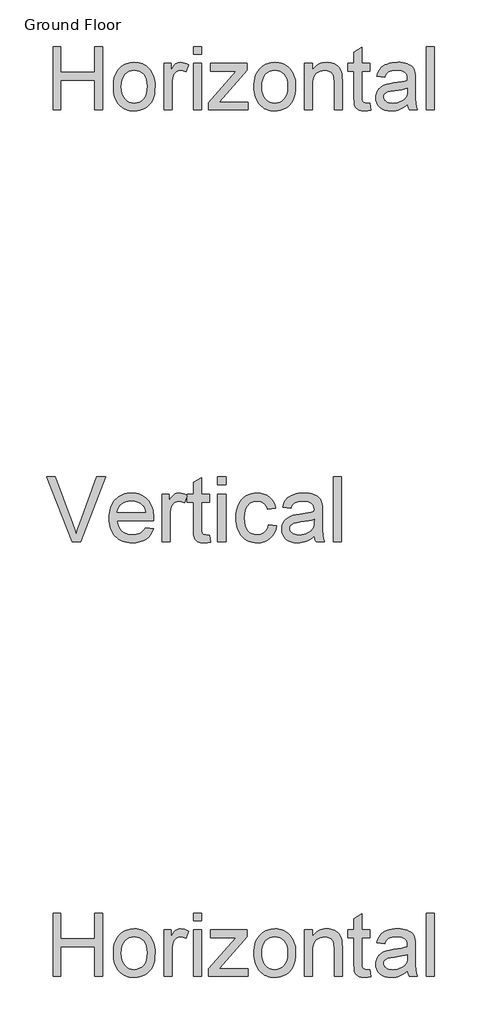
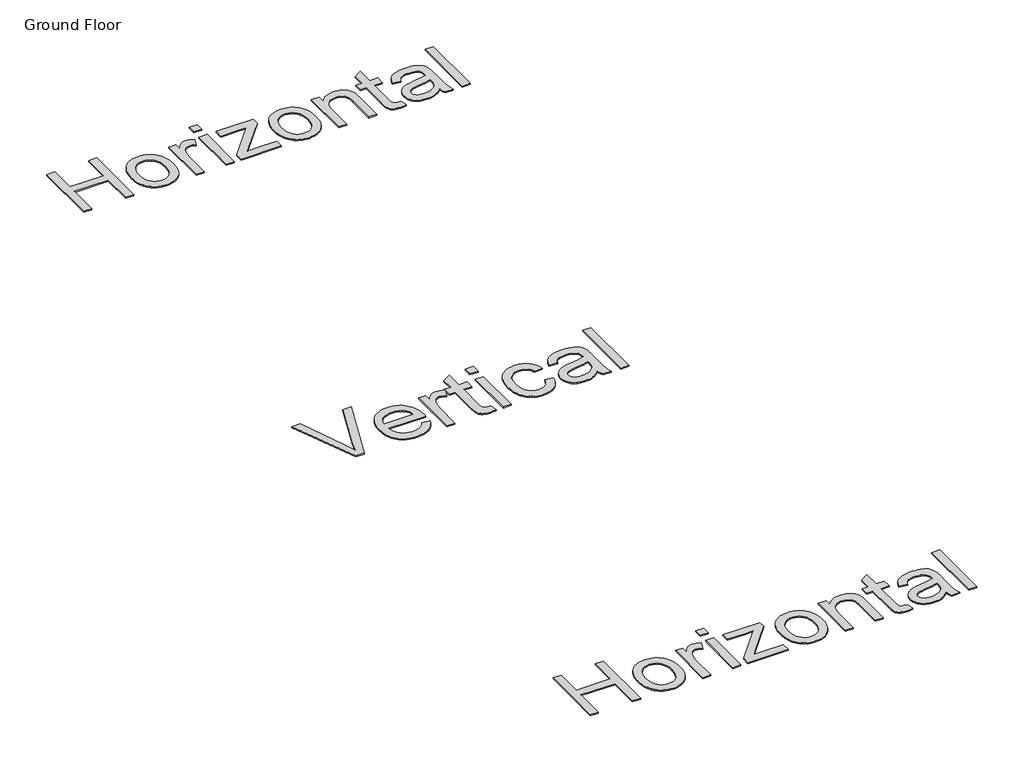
# One storey, part 5 of 12: 3 proxies.
"""IFC4 building model written with IfcOpenShell, lengths in millimetres."""

from ifc_helpers import new_model, si_unit, origin, origin_with_axes, place, context, project, spatial, polyline, outline, extrude, element, save

model = new_model("IFC4")

# Units and contexts
model_context = context("Model", 3, world=origin())
ifc_project = project(units=[si_unit("LENGTHUNIT", "METRE", prefix="MILLI")], contexts=[model_context])

# Site, building, storey
site = spatial("IfcSite", under=ifc_project)
building = spatial("IfcBuilding", under=site)
storey = spatial("IfcBuildingStorey", under=building, Name="Ground Floor", Elevation=0.0)

# Proxies
placement = place(None, origin())
element("IfcBuildingElementProxy", 1, Name="1200mm Arial", ObjectType="1200mm Arial", at=placement, inside=storey, context=model_context, shape_type="SweptSolid", body=[
    extrude(outline(polyline([(-17389.6614443, 299.4047843), (-17389.6614443, 1474.6775116), (-17242.7523534, 1474.6775116), (-17242.7523534, 997.2229661), (-16618.3887171, 997.2229661), (-16618.3887171, 1474.6775116), (-16471.4796262, 1474.6775116), (-16471.4796262, 299.4047843), (-16618.3887171, 299.4047843), (-16618.3887171, 850.3138752), (-17242.7523534, 850.3138752), (-17242.7523534, 299.4047843), (-17389.6614443, 299.4047843)])), origin_with_axes(), (0.0, 0.0, 1.0), 20.0),
    extrude(outline(polyline([(-16269.4796262, 730.9502389), (-16267.49352, 788.7714835), (-16261.5352014, 842.7281153), (-16251.6046706, 892.8201341), (-16237.7019273, 939.04754), (-16219.8269717, 981.410333), (-16197.9798037, 1019.908513), (-16172.1604234, 1054.5420801), (-16142.3688307, 1085.3110343), (-16115.1013414, 1107.7051661), (-16086.3812597, 1127.1134136), (-16056.2085857, 1143.5357769), (-16024.5833193, 1156.9722559), (-15991.5054607, 1167.4228507), (-15956.9750097, 1174.8875613), (-15883.5563307, 1180.8593298), (-15842.0610582, 1179.0413477), (-15802.5070587, 1173.5874015), (-15764.8943323, 1164.4974912), (-15729.222879, 1151.7716167), (-15695.4926988, 1135.4097781), (-15663.7037916, 1115.4119754), (-15633.8561576, 1091.7782085), (-15605.9497966, 1064.5084775), (-15580.697555, 1034.0331801), (-15558.8122789, 1000.782714), (-15540.2939683, 964.7570792), (-15525.1426233, 925.9562758), (-15513.3582439, 884.3803037), (-15504.94083, 840.0291629), (-15499.8903817, 792.9028534), (-15498.2068989, 743.0013752), (-15501.1838165, 664.3641238), (-15510.1145693, 594.5858923), (-15524.9991574, 533.6666806), (-15545.8375807, 481.6064889), (-15572.3698073, 436.638893), (-15604.3358051, 396.997469), (-15641.7355743, 362.6822168), (-15684.5691148, 333.6931366), (-15731.1686354, 310.6578916), (-15779.8663449, 294.2041451), (-15830.6622433, 284.3318972), (-15883.5563307, 281.041148), (-15925.7061665, 282.8524051), (-15965.7891965, 288.2861764), (-16003.8054207, 297.3424619), (-16039.7548392, 310.0212616), (-16073.637452, 326.3225755), (-16105.453259, 346.2464036), (-16135.2022602, 369.792746), (-16162.8844557, 396.9616025), (-16187.8676988, 427.5377744), (-16209.5198428, 461.3060627), (-16227.8408877, 498.2664676), (-16242.8308335, 538.4189889), (-16254.4896803, 581.7636266), (-16262.817428, 628.3003809), (-16267.8140766, 678.0292516), (-16269.4796262, 730.9502389)]), holes=[polyline([(-16122.5705353, 731.2371707), (-16118.3203577, 659.979447), (-16105.569825, 598.2801394), (-16084.3189372, 546.1392481), (-16054.5676943, 503.556773), (-16018.3784188, 470.4789143), (-15977.813433, 446.8518724), (-15932.872737, 432.6756472), (-15883.5563307, 427.9502389), (-15834.4909898, 432.7025471), (-15789.7296262, 446.9594718), (-15749.2722398, 470.721013), (-15713.1188307, 503.9871707), (-15683.3675878, 546.9910769), (-15662.1167, 599.9658639), (-15649.3661674, 662.9115315), (-15645.1159898, 735.8280798), (-15649.3930672, 804.8262154), (-15662.2242995, 864.9115315), (-15683.6096865, 916.0840279), (-15713.5492284, 958.3437048), (-15749.8371368, 991.4215634), (-15790.2676233, 1015.0486053), (-15834.840688, 1029.2248305), (-15883.5563307, 1033.9502389), (-15932.872737, 1029.2427637), (-15977.813433, 1015.1203383), (-16018.3784188, 991.5829626), (-16054.5676943, 958.6306366), (-16084.3189372, 916.1736941), (-16105.569825, 864.122469), (-16118.3203577, 802.4769612), (-16122.5705353, 731.2371707)])]), origin_with_axes(), (0.0, 0.0, 1.0), 20.0),
    extrude(outline(polyline([(-15332.9341716, 299.4047843), (-15332.9341716, 1162.4956934), (-15204.3887171, 1162.4956934), (-15204.3887171, 1034.8110343), (-15180.1788449, 1075.6270855), (-15156.9015012, 1108.8394434), (-15134.5566858, 1134.4481082), (-15113.1443989, 1152.4530798), (-15091.6962455, 1164.8808141), (-15069.2438307, 1173.7577673), (-15045.7871546, 1179.0839391), (-15021.3262171, 1180.8593298), (-14984.8858762, 1178.0258781), (-14948.1586034, 1169.525523), (-14911.1443989, 1155.3582644), (-14873.8432625, 1135.5241025), (-14922.9086034, 1003.822398), (-14948.7324671, 1017.0033284), (-14974.5563307, 1026.4182786), (-15000.3801943, 1032.0672488), (-15026.204058, 1033.9502389), (-15048.7192391, 1032.1389818), (-15070.0687597, 1026.7052105), (-15090.2526198, 1017.6489249), (-15109.2708193, 1004.9701252), (-15126.4060289, 989.0812758), (-15140.9409188, 970.3948411), (-15152.8754891, 948.9108212), (-15162.2097398, 924.6292161), (-15172.6289514, 884.5304945), (-15180.0712455, 842.5667161), (-15186.0250807, 753.0439889), (-15186.0250807, 299.4047843), (-15332.9341716, 299.4047843)])), origin_with_axes(), (0.0, 0.0, 1.0), 20.0),
    extrude(outline(polyline([(-14782.0250807, 299.4047843), (-14782.0250807, 1162.4956934), (-14635.1159898, 1162.4956934), (-14635.1159898, 299.4047843), (-14782.0250807, 299.4047843)])), origin_with_axes(), (0.0, 0.0, 1.0), 20.0),
    extrude(outline(polyline([(-14782.0250807, 1327.7684207), (-14782.0250807, 1474.6775116), (-14635.1159898, 1474.6775116), (-14635.1159898, 1327.7684207), (-14782.0250807, 1327.7684207)])), origin_with_axes(), (0.0, 0.0, 1.0), 20.0),
    extrude(outline(polyline([(-14506.5705353, 299.4047843), (-14506.5705353, 437.7059207), (-13999.5620125, 1015.5866025), (-14149.6273534, 1015.5866025), (-14469.8432625, 1015.5866025), (-14469.8432625, 1162.4956934), (-13790.3887171, 1162.4956934), (-13790.3887171, 1037.6803525), (-14240.0108762, 524.9331934), (-14308.8745125, 446.3138752), (-14139.0108762, 446.3138752), (-13772.0250807, 446.3138752), (-13772.0250807, 299.4047843), (-14506.5705353, 299.4047843)])), origin_with_axes(), (0.0, 0.0, 1.0), 20.0),
    extrude(outline(polyline([(-13661.8432625, 730.9502389), (-13659.8571563, 788.7714835), (-13653.8988378, 842.7281153), (-13643.9683069, 892.8201341), (-13630.0655637, 939.04754), (-13612.1906081, 981.410333), (-13590.3434401, 1019.908513), (-13564.5240598, 1054.5420801), (-13534.7324671, 1085.3110343), (-13507.4649777, 1107.7051661), (-13478.744896, 1127.1134136), (-13448.572222, 1143.5357769), (-13416.9469557, 1156.9722559), (-13383.869097, 1167.4228507), (-13349.338646, 1174.8875613), (-13275.9199671, 1180.8593298), (-13234.4246945, 1179.0413477), (-13194.8706951, 1173.5874015), (-13157.2579687, 1164.4974912), (-13121.5865154, 1151.7716167), (-13087.8563351, 1135.4097781), (-13056.067428, 1115.4119754), (-13026.219794, 1091.7782085), (-12998.313433, 1064.5084775), (-12973.0611913, 1034.0331801), (-12951.1759152, 1000.782714), (-12932.6576047, 964.7570792), (-12917.5062597, 925.9562758), (-12905.7218802, 884.3803037), (-12897.3044664, 840.0291629), (-12892.254018, 792.9028534), (-12890.5705353, 743.0013752), (-12893.5474529, 664.3641238), (-12902.4782057, 594.5858923), (-12917.3627938, 533.6666806), (-12938.2012171, 481.6064889), (-12964.7334436, 436.638893), (-12996.6994415, 396.997469), (-13034.0992107, 362.6822168), (-13076.9327512, 333.6931366), (-13123.5322718, 310.6578916), (-13172.2299813, 294.2041451), (-13223.0258797, 284.3318972), (-13275.9199671, 281.041148), (-13318.0698028, 282.8524051), (-13358.1528328, 288.2861764), (-13396.1690571, 297.3424619), (-13432.1184756, 310.0212616), (-13466.0010883, 326.3225755), (-13497.8168953, 346.2464036), (-13527.5658966, 369.792746), (-13555.2480921, 396.9616025), (-13580.2313351, 427.5377744), (-13601.8834791, 461.3060627), (-13620.2045241, 498.2664676), (-13635.1944699, 538.4189889), (-13646.8533167, 581.7636266), (-13655.1810644, 628.3003809), (-13660.177713, 678.0292516), (-13661.8432625, 730.9502389)]), holes=[polyline([(-13514.9341716, 731.2371707), (-13510.6839941, 659.979447), (-13497.9334614, 598.2801394), (-13476.6825736, 546.1392481), (-13446.9313307, 503.556773), (-13410.7420551, 470.4789143), (-13370.1770693, 446.8518724), (-13325.2363733, 432.6756472), (-13275.9199671, 427.9502389), (-13226.8546262, 432.7025471), (-13182.0932625, 446.9594718), (-13141.6358762, 470.721013), (-13105.4824671, 503.9871707), (-13075.7312242, 546.9910769), (-13054.4803364, 599.9658639), (-13041.7298037, 662.9115315), (-13037.4796262, 735.8280798), (-13041.7567036, 804.8262154), (-13054.5879358, 864.9115315), (-13075.9733229, 916.0840279), (-13105.9128648, 958.3437048), (-13142.2007732, 991.4215634), (-13182.6312597, 1015.0486053), (-13227.2043243, 1029.2248305), (-13275.9199671, 1033.9502389), (-13325.2363733, 1029.2427637), (-13370.1770693, 1015.1203383), (-13410.7420551, 991.5829626), (-13446.9313307, 958.6306366), (-13476.6825736, 916.1736941), (-13497.9334614, 864.122469), (-13510.6839941, 802.4769612), (-13514.9341716, 731.2371707)])]), origin_with_axes(), (0.0, 0.0, 1.0), 20.0),
    extrude(outline(polyline([(-12725.297808, 299.4047843), (-12725.297808, 1162.4956934), (-12578.3887171, 1162.4956934), (-12578.3887171, 1041.9843298), (-12554.1519451, 1074.5331579), (-12527.3507199, 1102.7421423), (-12497.9850416, 1126.6112829), (-12466.0549103, 1146.1405798), (-12431.5603257, 1161.3300329), (-12394.5012881, 1172.1796423), (-12354.8777973, 1178.6894079), (-12312.6898534, 1180.8593298), (-12275.720482, 1179.110839), (-12240.2754358, 1173.8653667), (-12206.3547149, 1165.1229129), (-12173.9583193, 1152.8834775), (-12144.3146759, 1137.8016238), (-12118.6522114, 1120.531915), (-12096.9709259, 1101.0743511), (-12079.2708193, 1079.428932), (-12052.5502938, 1029.6821281), (-12035.2267853, 971.3991025), (-12029.4164159, 915.6625968), (-12027.4796262, 829.3678525), (-12027.4796262, 299.4047843), (-12174.3887171, 299.4047843), (-12174.3887171, 809.569557), (-12178.6209614, 885.5347559), (-12183.9112668, 915.2859988), (-12191.3176943, 939.5496707), (-12201.4051411, 959.9845961), (-12214.738504, 978.2495997), (-12231.3177831, 994.3446813), (-12251.1429784, 1008.2698411), (-12273.5326269, 1019.5050151), (-12297.8052654, 1027.5301394), (-12323.9608939, 1032.345214), (-12351.9995125, 1033.9502389), (-12396.6084436, 1030.3456579), (-12438.0431915, 1019.531915), (-12476.3037561, 1001.5090102), (-12511.3901375, 976.2769434), (-12527.0929296, 960.2401448), (-12540.7020161, 940.9663965), (-12552.2173969, 918.4556987), (-12561.6390722, 892.7080514), (-12574.2013058, 831.5019079), (-12578.3887171, 757.3479661), (-12578.3887171, 299.4047843), (-12725.297808, 299.4047843)])), origin_with_axes(), (0.0, 0.0, 1.0), 20.0),
    extrude(outline(polyline([(-11513.297808, 421.9246707), (-11494.9341716, 295.100807), (-11553.1095978, 284.5560627), (-11604.829058, 281.041148), (-11642.32746, 282.5654732), (-11675.3425523, 287.1384491), (-11703.874335, 294.7600755), (-11727.922808, 305.4303525), (-11748.1156347, 318.5754164), (-11765.0804784, 333.6214036), (-11778.8173392, 350.5683141), (-11789.3262171, 369.416148), (-11797.1092426, 394.6840812), (-11802.6685466, 430.89129), (-11807.1159898, 536.1235343), (-11807.1159898, 1015.5866025), (-11917.297808, 1015.5866025), (-11917.297808, 1162.4956934), (-11807.1159898, 1162.4956934), (-11807.1159898, 1372.2428525), (-11660.2068989, 1458.6093298), (-11660.2068989, 1162.4956934), (-11513.297808, 1162.4956934), (-11513.297808, 1015.5866025), (-11660.2068989, 1015.5866025), (-11660.2068989, 540.4275116), (-11658.2701091, 492.0795002), (-11652.4597398, 464.6775116), (-11642.3095267, 449.5059917), (-11627.3532057, 437.8493866), (-11606.1561176, 430.4250258), (-11577.2836034, 427.9502389), (-11513.297808, 421.9246707)])), origin_with_axes(), (0.0, 0.0, 1.0), 20.0),
    extrude(outline(polyline([(-10815.4796262, 409.5866025), (-10850.3149422, 376.8943085), (-10885.6703222, 349.4026536), (-10921.5457661, 327.111638), (-10957.9412739, 310.0212616), (-10995.2693101, 297.3424619), (-11033.9423392, 288.2861764), (-11073.9603612, 282.8524051), (-11115.3233762, 281.041148), (-11180.7348641, 285.3989249), (-11238.0943279, 298.4722559), (-11287.4017675, 320.2611409), (-11328.657183, 350.7655798), (-11361.232911, 388.0487829), (-11384.5012881, 430.1739605), (-11398.4623144, 477.1411124), (-11403.1159898, 528.9502389), (-11401.3585324, 560.1002744), (-11396.0861603, 589.8515173), (-11387.2988733, 618.2039676), (-11374.9966716, 645.1576252), (-11359.8341183, 670.1206934), (-11342.4657767, 692.5013752), (-11322.8916468, 712.2996707), (-11301.1117284, 729.5155798), (-11252.5126517, 757.491432), (-11198.2466716, 777.7201252), (-11145.3794841, 788.9821991), (-11071.1358762, 799.8138752), (-10920.9270693, 823.0553525), (-10862.9309756, 836.1824832), (-10816.3404216, 850.3138752), (-10815.4796262, 883.0241025), (-10818.0082128, 918.6395144), (-10825.5939728, 948.588023), (-10838.236906, 972.8696281), (-10855.9370125, 991.4843298), (-10886.5311176, 1010.063165), (-10923.7963875, 1023.3337616), (-10967.7328222, 1031.2961195), (-11018.3404216, 1033.9502389), (-11065.3972398, 1032.1838149), (-11105.8546262, 1026.8845428), (-11139.7125807, 1018.0524228), (-11166.9711034, 1005.6874548), (-11189.3697185, 988.8212438), (-11208.64795, 966.4853951), (-11224.805798, 938.6799086), (-11237.8432625, 905.4047843), (-11384.7523534, 923.7684207), (-11373.5709791, 966.0908639), (-11359.2512881, 1004.1093298), (-11341.7932803, 1037.8238184), (-11321.1969557, 1067.2343298), (-11296.5746191, 1092.9326607), (-11267.038575, 1115.5106082), (-11232.5888236, 1134.9681721), (-11193.2253648, 1151.3053525), (-11149.7462277, 1164.2352176), (-11102.9494415, 1173.4708355), (-11052.8350061, 1179.0122062), (-10999.4029216, 1180.8593298), (-10947.1723641, 1179.2274051), (-10900.088646, 1174.3316309), (-10858.1517675, 1166.1720073), (-10821.3617284, 1154.7485343), (-10789.4136638, 1140.859241), (-10762.0027085, 1125.3021565), (-10739.1288627, 1108.0772808), (-10720.7921262, 1089.1846139), (-10705.9254713, 1068.1578916), (-10693.4618705, 1044.5308497), (-10675.7438307, 989.475807), (-10670.3638591, 938.6888752), (-10668.5705353, 860.9303525), (-10668.5705353, 678.1547843), (-10666.7054784, 518.9434917), (-10661.110308, 422.928932), (-10650.063433, 359.8397985), (-10631.8432625, 299.4047843), (-10778.7523534, 299.4047843), (-10791.8077512, 323.9374548), (-10802.2807625, 350.478648), (-10815.4796262, 409.5866025)]), holes=[polyline([(-10815.4796262, 703.4047843), (-10859.882325, 690.6901181), (-10914.1841716, 678.9438468), (-11052.485308, 658.3564889), (-11128.7015722, 647.094415), (-11178.8787739, 634.541148), (-11211.7683335, 618.2577673), (-11236.1216716, 595.8053525), (-11251.1855921, 568.9054945), (-11256.2068989, 539.2797843), (-11253.47208, 516.4507715), (-11245.2676233, 495.594415), (-11231.5935289, 476.7107147), (-11212.4497966, 459.7996707), (-11188.015759, 445.8655443), (-11158.4707483, 435.9125968), (-11123.8147647, 429.9408284), (-11084.047808, 427.9502389), (-11043.4469557, 430.1470606), (-11005.141558, 436.7375258), (-10969.1316148, 447.7216345), (-10935.4171262, 463.0993866), (-10905.0023534, 481.5975222), (-10878.891558, 501.9427815), (-10857.0847398, 524.1351643), (-10839.5818989, 548.1746707), (-10829.4137526, 569.694557), (-10822.1507909, 595.8053525), (-10817.7930139, 626.507057), (-10816.3404216, 661.7996707), (-10815.4796262, 703.4047843)])]), origin_with_axes(), (0.0, 0.0, 1.0), 20.0),
    extrude(outline(polyline([(-10466.5705353, 299.4047843), (-10466.5705353, 1474.6775116), (-10319.6614443, 1474.6775116), (-10319.6614443, 299.4047843), (-10466.5705353, 299.4047843)])), origin_with_axes(), (0.0, 0.0, 1.0), 20.0),
])
element("IfcBuildingElementProxy", 2, Name="1200mm Arial", ObjectType="1200mm Arial", at=placement, inside=storey, context=model_context, shape_type="SweptSolid", body=[
    extrude(outline(polyline([(-17030.2482205, 8349.821617), (-17509.9663422, 9555.2973388), (-17348.6868755, 9555.2973388), (-17027.5994701, 8686.8015246), (-16991.9149166, 8585.6339759), (-16962.5579334, 8491.0883032), (-16932.6859154, 8589.0184903), (-16898.3993134, 8686.8015246), (-16576.4289912, 9555.2973388), (-16415.1495246, 9555.2973388), (-16874.5605601, 8349.821617), (-17030.2482205, 8349.821617)])), origin_with_axes(), (0.0, 0.0, 1.0), 20.0),
    extrude(outline(polyline([(-15674.0880335, 8613.5194312), (-15526.3466242, 8594.683873), (-15548.9989581, 8535.5100541), (-15579.5791489, 8483.3627813), (-15618.0871968, 8438.2420546), (-15664.5231016, 8400.147874), (-15718.4086168, 8369.8895798), (-15779.2654959, 8348.2765126), (-15847.0937387, 8335.3086723), (-15921.8933454, 8330.9860589), (-15969.9157414, 8332.8507607), (-16015.3905545, 8338.4448663), (-16058.3177848, 8347.7683756), (-16098.6974323, 8360.8212887), (-16136.529497, 8377.6036054), (-16171.8139788, 8398.1153259), (-16204.5508779, 8422.3564501), (-16234.7401941, 8450.3269781), (-16261.8484986, 8481.6636263), (-16285.3423626, 8516.0031113), (-16305.2217859, 8553.3454331), (-16321.4867686, 8593.6905916), (-16334.1373107, 8637.038587), (-16343.1734122, 8683.3894191), (-16348.5950731, 8732.743088), (-16350.4022934, 8785.0995937), (-16348.576679, 8839.2380278), (-16343.0998358, 8890.258662), (-16333.9717638, 8938.1614963), (-16321.192463, 8982.9465307), (-16304.7619334, 9024.6137652), (-16284.680175, 9063.1631998), (-16260.9471877, 9098.5948344), (-16233.5629717, 9130.9086692), (-16203.2678894, 9159.7414205), (-16170.8023034, 9184.7298051), (-16136.1662135, 9205.8738227), (-16099.3596199, 9223.1734736), (-16060.3825225, 9236.6287575), (-16019.2349213, 9246.2396747), (-15975.9168164, 9252.0062249), (-15930.4282077, 9253.9284084), (-15886.4272218, 9252.0108235), (-15844.4817766, 9246.2580688), (-15804.591872, 9236.6701443), (-15766.7575081, 9223.24705), (-15730.9786848, 9205.9887859), (-15697.2554021, 9184.895352), (-15665.5876601, 9159.9667483), (-15635.9754588, 9131.2029748), (-15609.1775547, 9098.9627164), (-15585.9527045, 9063.6046582), (-15566.3009081, 9025.1288), (-15550.2221657, 8983.5351419), (-15537.7164771, 8938.8236839), (-15528.7838424, 8890.994426), (-15523.4242616, 8840.0473682), (-15521.6377347, 8785.9825105), (-15522.5206515, 8745.3683382), (-16199.7178282, 8745.3683382), (-16190.9898278, 8685.2380261), (-16173.6349947, 8632.5757185), (-16147.6533288, 8587.3814154), (-16113.0448301, 8549.6551168), (-16071.722485, 8519.9118575), (-16025.5992799, 8498.6666723), (-15974.6752147, 8485.9195611), (-15918.9502895, 8481.6705241), (-15877.2692594, 8483.6386928), (-15838.7520145, 8489.5431988), (-15803.3985548, 8499.3840421), (-15771.2088802, 8513.1612229), (-15742.1829908, 8531.2426229), (-15716.3208865, 8553.9961243), (-15693.6225674, 8581.4217271), (-15674.0880335, 8613.5194312)]), holes=[polyline([(-16199.7178282, 8896.0528034), (-15672.3221999, 8896.0528034), (-15680.0661159, 8938.6903267), (-15692.7028624, 8975.6624672), (-15710.2324395, 9006.969225), (-15732.6548471, 9032.6106001), (-15773.747266, 9063.5126877), (-15820.5050675, 9085.5856074), (-15872.9282519, 9098.8293592), (-15931.0168189, 9103.2439431), (-15984.0010233, 9099.721473), (-16032.5890378, 9089.1540627), (-16076.7808624, 9071.5417122), (-16116.5764973, 9046.8844215), (-16149.9709854, 9016.3226247), (-16174.9593699, 8980.9967561), (-16191.5416508, 8940.9068157), (-16199.7178282, 8896.0528034)])]), origin_with_axes(), (0.0, 0.0, 1.0), 20.0),
    extrude(outline(polyline([(-15370.9532694, 8349.821617), (-15370.9532694, 9235.0928502), (-15239.1043624, 9235.0928502), (-15239.1043624, 9104.1268599), (-15214.2723277, 9145.991831), (-15190.3967862, 9180.0577037), (-15167.4777379, 9206.3244782), (-15145.5151828, 9224.7921543), (-15123.5158395, 9237.5392655), (-15100.4864266, 9246.6443449), (-15076.4269441, 9252.1073925), (-15051.337392, 9253.9284084), (-15013.9605813, 9251.0221406), (-14976.289465, 9242.3033373), (-14938.3240431, 9227.7719985), (-14900.0643156, 9207.4281242), (-14950.3905726, 9072.3418555), (-14976.8780762, 9085.8615189), (-15003.3655799, 9095.5184212), (-15029.8530835, 9101.3125627), (-15056.3405872, 9103.2439431), (-15079.4343794, 9101.3861391), (-15101.3325552, 9095.8127268), (-15122.0351145, 9086.5237065), (-15141.5420572, 9073.5190779), (-15159.1176196, 9057.2219055), (-15174.0260374, 9038.0552536), (-15186.2673108, 9016.0191221), (-15195.8414397, 8991.113511), (-15206.5284117, 8949.9843039), (-15214.1619631, 8906.9421105), (-15220.2688042, 8815.1187645), (-15220.2688042, 8349.821617), (-15370.9532694, 8349.821617)])), origin_with_axes(), (0.0, 0.0, 1.0), 20.0),
    extrude(outline(polyline([(-14485.6820362, 8475.4901066), (-14466.8464781, 8345.4070331), (-14526.5169377, 8334.5913024), (-14579.5655214, 8330.9860589), (-14618.027584, 8332.5495573), (-14651.8911217, 8337.2400528), (-14681.1561344, 8345.0575452), (-14705.8226222, 8356.0020345), (-14726.5343785, 8369.4849097), (-14743.9351969, 8384.9175594), (-14758.0250773, 8402.2999836), (-14768.8040197, 8421.6321825), (-14776.787059, 8447.549469), (-14782.48923, 8484.6871564), (-14787.0509667, 8592.6237338), (-14787.0509667, 9084.408385), (-14900.0643156, 9084.408385), (-14900.0643156, 9235.0928502), (-14787.0509667, 9235.0928502), (-14787.0509667, 9450.230241), (-14636.3665015, 9538.8162254), (-14636.3665015, 9235.0928502), (-14485.6820362, 9235.0928502), (-14485.6820362, 9084.408385), (-14636.3665015, 9084.408385), (-14636.3665015, 8597.0383178), (-14634.3799387, 8547.4478248), (-14628.4202504, 8519.3416404), (-14618.0091899, 8503.780232), (-14602.6685107, 8491.8240671), (-14580.9266848, 8484.2089098), (-14551.3121842, 8481.6705241), (-14485.6820362, 8475.4901066)])), origin_with_axes(), (0.0, 0.0, 1.0), 20.0),
    extrude(outline(polyline([(-14334.997571, 8349.821617), (-14334.997571, 9235.0928502), (-14184.3131058, 9235.0928502), (-14184.3131058, 8349.821617), (-14334.997571, 8349.821617)])), origin_with_axes(), (0.0, 0.0, 1.0), 20.0),
    extrude(outline(polyline([(-14334.997571, 9404.6128736), (-14334.997571, 9555.2973388), (-14184.3131058, 9555.2973388), (-14184.3131058, 9404.6128736), (-14334.997571, 9404.6128736)])), origin_with_axes(), (0.0, 0.0, 1.0), 20.0),
    extrude(outline(polyline([(-13393.2196634, 8670.0261056), (-13242.5351981, 8651.1905475), (-13258.924341, 8580.0881548), (-13284.547322, 8517.1711366), (-13319.404141, 8462.4394928), (-13363.4947982, 8415.8932233), (-13414.9614893, 8378.7463389), (-13471.9464103, 8352.21285), (-13534.4495613, 8336.2927566), (-13602.4709422, 8330.9860589), (-13645.8189376, 8332.8369651), (-13686.9826336, 8338.389684), (-13725.9620302, 8347.6442155), (-13762.7571275, 8360.6005595), (-13797.3679255, 8377.2587161), (-13829.7944241, 8397.6186852), (-13860.0366234, 8421.680467), (-13888.0945233, 8449.4440613), (-13913.3749141, 8480.6657464), (-13935.2845862, 8515.1018004), (-13953.8235395, 8552.7522233), (-13968.991774, 8593.6170152), (-13980.7892898, 8637.696176), (-13989.2160867, 8684.9897058), (-13994.2721649, 8735.4976044), (-13995.9575243, 8789.219872), (-13993.0788477, 8858.5012488), (-13984.4428178, 8923.3128593), (-13970.0494348, 8983.6547036), (-13949.8986985, 9039.5267816), (-13923.8526532, 9089.8070533), (-13891.7733432, 9133.3734785), (-13853.6607685, 9170.2260574), (-13809.5149291, 9200.3647899), (-13761.3315848, 9223.798873), (-13711.1064954, 9240.5375037), (-13658.8396609, 9250.5806822), (-13604.5310814, 9253.9284084), (-13537.6777258, 9249.3298834), (-13477.2071229, 9235.5343086), (-13423.1192725, 9212.5416839), (-13375.4141748, 9180.3520093), (-13334.9011701, 9139.7010489), (-13302.3895988, 9091.3245665), (-13277.8794608, 9035.2225622), (-13261.3707563, 8971.3950361), (-13412.0552215, 8952.5594779), (-13423.8182483, 8987.7565878), (-13439.3888538, 9018.2999904), (-13458.7670379, 9044.1896859), (-13481.9528006, 9065.425674), (-13508.3575308, 9081.9711668), (-13537.3926173, 9093.7893759), (-13569.05806, 9100.8803013), (-13603.353859, 9103.2439431), (-13654.5538357, 9098.5902359), (-13700.7322231, 9084.6291142), (-13741.8890213, 9061.360578), (-13778.0242303, 9028.7846273), (-13793.7856746, 9008.817832), (-13807.4455929, 8986.1471041), (-13828.4608519, 8932.6938502), (-13841.0700072, 8868.4248656), (-13845.273059, 8793.3401504), (-13841.1619777, 8717.124198), (-13828.8287339, 8652.1102524), (-13808.2733274, 8598.2983136), (-13794.9123132, 8575.5930967), (-13779.4957583, 8555.6883815), (-13744.0779192, 8523.3055689), (-13703.6017027, 8500.1749884), (-13658.0671087, 8486.2966402), (-13607.4741374, 8481.6705241), (-13566.7036152, 8484.5583977), (-13529.4463662, 8493.2220187), (-13495.7023902, 8507.661387), (-13465.4716872, 8527.8765027), (-13439.6003859, 8554.0880948), (-13418.9346148, 8586.5168927), (-13403.474374, 8625.1628963), (-13393.2196634, 8670.0261056)])), origin_with_axes(), (0.0, 0.0, 1.0), 20.0),
    extrude(outline(polyline([(-12545.6195465, 8462.8349659), (-12581.3500853, 8429.3025221), (-12617.6140529, 8401.1043671), (-12654.4114495, 8378.2405011), (-12691.742275, 8360.7109241), (-12730.0295936, 8347.7062955), (-12769.6964697, 8338.4172752), (-12810.7429034, 8332.8438629), (-12853.1688945, 8330.9860589), (-12920.2613733, 8335.4558251), (-12979.0949014, 8348.8651238), (-13029.6694787, 8371.213955), (-13071.9851052, 8402.5023187), (-13105.3979874, 8440.7436521), (-13129.2643318, 8483.9513925), (-13143.5841385, 8532.1255397), (-13148.3574074, 8585.2660939), (-13146.5547856, 8617.2166452), (-13141.1469203, 8647.7324567), (-13132.1338114, 8676.8135284), (-13119.515459, 8704.4598604), (-13103.9632476, 8730.0644472), (-13086.148562, 8753.0202837), (-13066.0714021, 8773.3273699), (-13043.731768, 8790.9857056), (-12993.8837576, 8819.6805013), (-12938.2232117, 8840.4290458), (-12883.9974056, 8851.9805404), (-12807.8458326, 8863.0905767), (-12653.7768531, 8886.92933), (-12594.2903344, 8900.393811), (-12546.5024633, 8914.8883616), (-12545.6195465, 8948.4391996), (-12548.2131145, 8984.9698817), (-12555.9938187, 9015.6880283), (-12568.9616591, 9040.5936394), (-12587.1166355, 9059.6867149), (-12618.4969697, 9078.7430023), (-12656.719909, 9092.3546361), (-12701.7854534, 9100.5216164), (-12753.693603, 9103.2439431), (-12801.9597207, 9101.4321243), (-12843.4568098, 9095.9966678), (-12878.1848701, 9086.9375737), (-12906.1439018, 9074.2548419), (-12929.1181324, 9056.9551911), (-12948.8917896, 9034.0453398), (-12965.4648735, 9005.5252882), (-12978.837384, 8971.3950361), (-13129.5218492, 8990.2305942), (-13118.053128, 9033.6406696), (-13103.3654394, 9072.6361611), (-13085.4587833, 9107.2170687), (-13064.3331597, 9137.3833923), (-13039.0780607, 9163.7421372), (-13008.7829784, 9186.9003088), (-12973.4479128, 9206.8579071), (-12933.0728638, 9223.614932), (-12888.4763689, 9236.8770779), (-12840.4769656, 9246.3500393), (-12789.0746538, 9252.0338161), (-12734.2694336, 9253.9284084), (-12680.6966181, 9252.2545453), (-12632.4029091, 9247.232956), (-12589.3883069, 9238.8636407), (-12551.6528112, 9227.1465991), (-12518.8837225, 9212.9003688), (-12490.768341, 9196.9434873), (-12467.3066668, 9179.2759545), (-12448.4986998, 9159.8977704), (-12433.2499911, 9138.3306884), (-12420.4660917, 9114.096462), (-12402.2927212, 9057.6265757), (-12396.7744912, 9005.5344852), (-12394.9350813, 8925.7776687), (-12394.9350813, 8738.3050039), (-12393.0220949, 8575.0021863), (-12387.2831358, 8476.5201761), (-12375.9523703, 8411.8097332), (-12357.263965, 8349.821617), (-12507.9484302, 8349.821617), (-12521.3393348, 8374.9847455), (-12532.0814891, 8402.2080131), (-12545.6195465, 8462.8349659)]), holes=[polyline([(-12545.6195465, 8764.2038964), (-12591.1633375, 8751.1624796), (-12646.8606716, 8739.1143443), (-12788.7159689, 8717.9979178), (-12866.8908929, 8706.4464231), (-12918.357584, 8693.5705533), (-12952.092363, 8676.8687107), (-12977.0715504, 8653.8392978), (-12992.5225942, 8626.2481482), (-12997.6729422, 8595.8610954), (-12994.8678419, 8572.4454064), (-12986.4525413, 8551.0530684), (-12972.4270402, 8531.6840813), (-12952.7913387, 8514.3384453), (-12927.7293778, 8500.0462297), (-12897.4250985, 8489.8375044), (-12861.8785007, 8483.7122692), (-12821.0895845, 8481.6705241), (-12779.4453426, 8483.9238013), (-12740.1555455, 8490.683633), (-12703.2201932, 8501.9500191), (-12668.6392857, 8517.7229596), (-12637.4428925, 8536.6964735), (-12610.6610832, 8557.5645797), (-12588.2938579, 8580.3272781), (-12570.3412166, 8604.9845689), (-12559.911762, 8627.0574886), (-12552.4621516, 8653.8392978), (-12547.9923854, 8685.3299966), (-12546.5024633, 8721.5295849), (-12545.6195465, 8764.2038964)])]), origin_with_axes(), (0.0, 0.0, 1.0), 20.0),
    extrude(outline(polyline([(-12187.7439416, 8349.821617), (-12187.7439416, 9555.2973388), (-12037.0594764, 9555.2973388), (-12037.0594764, 8349.821617), (-12187.7439416, 8349.821617)])), origin_with_axes(), (0.0, 0.0, 1.0), 20.0),
])
element("IfcBuildingElementProxy", 3, Name="1200mm Arial", ObjectType="1200mm Arial", at=placement, inside=storey, context=model_context, shape_type="SweptSolid", body=[
    extrude(outline(polyline([(-17389.6614443, 16349.821617), (-17389.6614443, 17525.0943443), (-17242.7523534, 17525.0943443), (-17242.7523534, 17047.6397988), (-16618.3887171, 17047.6397988), (-16618.3887171, 17525.0943443), (-16471.4796262, 17525.0943443), (-16471.4796262, 16349.821617), (-16618.3887171, 16349.821617), (-16618.3887171, 16900.7307079), (-17242.7523534, 16900.7307079), (-17242.7523534, 16349.821617), (-17389.6614443, 16349.821617)])), origin_with_axes(), (0.0, 0.0, 1.0), 20.0),
    extrude(outline(polyline([(-16269.4796262, 16781.3670716), (-16267.49352, 16839.1883162), (-16261.5352014, 16893.144948), (-16251.6046706, 16943.2369668), (-16237.7019273, 16989.4643727), (-16219.8269717, 17031.8271657), (-16197.9798037, 17070.3253457), (-16172.1604234, 17104.9589128), (-16142.3688307, 17135.727867), (-16115.1013414, 17158.1219988), (-16086.3812597, 17177.5302463), (-16056.2085857, 17193.9526096), (-16024.5833193, 17207.3890886), (-15991.5054607, 17217.8396834), (-15956.9750097, 17225.304394), (-15883.5563307, 17231.2761625), (-15842.0610582, 17229.4581804), (-15802.5070587, 17224.0042342), (-15764.8943323, 17214.9143239), (-15729.222879, 17202.1884494), (-15695.4926988, 17185.8266108), (-15663.7037916, 17165.8288081), (-15633.8561576, 17142.1950412), (-15605.9497966, 17114.9253102), (-15580.697555, 17084.4500128), (-15558.8122789, 17051.1995467), (-15540.2939683, 17015.1739119), (-15525.1426233, 16976.3731085), (-15513.3582439, 16934.7971364), (-15504.94083, 16890.4459956), (-15499.8903817, 16843.3196861), (-15498.2068989, 16793.4182079), (-15501.1838165, 16714.7809565), (-15510.1145693, 16645.002725), (-15524.9991574, 16584.0835133), (-15545.8375807, 16532.0233216), (-15572.3698073, 16487.0557257), (-15604.3358051, 16447.4143017), (-15641.7355743, 16413.0990495), (-15684.5691148, 16384.1099693), (-15731.1686354, 16361.0747243), (-15779.8663449, 16344.6209778), (-15830.6622433, 16334.7487299), (-15883.5563307, 16331.4579806), (-15925.7061665, 16333.2692377), (-15965.7891965, 16338.7030091), (-16003.8054207, 16347.7592946), (-16039.7548392, 16360.4380943), (-16073.637452, 16376.7394082), (-16105.453259, 16396.6632363), (-16135.2022602, 16420.2095787), (-16162.8844557, 16447.3784352), (-16187.8676988, 16477.9546071), (-16209.5198428, 16511.7228954), (-16227.8408877, 16548.6833002), (-16242.8308335, 16588.8358216), (-16254.4896803, 16632.1804593), (-16262.817428, 16678.7172136), (-16267.8140766, 16728.4460843), (-16269.4796262, 16781.3670716)]), holes=[polyline([(-16122.5705353, 16781.6540034), (-16118.3203577, 16710.3962797), (-16105.569825, 16648.6969721), (-16084.3189372, 16596.5560808), (-16054.5676943, 16553.9736056), (-16018.3784188, 16520.895747), (-15977.813433, 16497.2687051), (-15932.872737, 16483.0924799), (-15883.5563307, 16478.3670716), (-15834.4909898, 16483.1193798), (-15789.7296262, 16497.3763045), (-15749.2722398, 16521.1378457), (-15713.1188307, 16554.4040034), (-15683.3675878, 16597.4079096), (-15662.1167, 16650.3826966), (-15649.3661674, 16713.3283642), (-15645.1159898, 16786.2449125), (-15649.3930672, 16855.2430481), (-15662.2242995, 16915.3283642), (-15683.6096865, 16966.5008606), (-15713.5492284, 17008.7605375), (-15749.8371368, 17041.8383961), (-15790.2676233, 17065.465438), (-15834.840688, 17079.6416632), (-15883.5563307, 17084.3670716), (-15932.872737, 17079.6595964), (-15977.813433, 17065.537171), (-16018.3784188, 17041.9997953), (-16054.5676943, 17009.0474693), (-16084.3189372, 16966.5905268), (-16105.569825, 16914.5393017), (-16118.3203577, 16852.8937939), (-16122.5705353, 16781.6540034)])]), origin_with_axes(), (0.0, 0.0, 1.0), 20.0),
    extrude(outline(polyline([(-15332.9341716, 16349.821617), (-15332.9341716, 17212.9125261), (-15204.3887171, 17212.9125261), (-15204.3887171, 17085.227867), (-15180.1788449, 17126.0439181), (-15156.9015012, 17159.2562761), (-15134.5566858, 17184.8649409), (-15113.1443989, 17202.8699125), (-15091.6962455, 17215.2976468), (-15069.2438307, 17224.1746), (-15045.7871546, 17229.5007718), (-15021.3262171, 17231.2761625), (-14984.8858762, 17228.4427108), (-14948.1586034, 17219.9423556), (-14911.1443989, 17205.7750971), (-14873.8432625, 17185.9409352), (-14922.9086034, 17054.2392306), (-14948.7324671, 17067.420161), (-14974.5563307, 17076.8351113), (-15000.3801943, 17082.4840815), (-15026.204058, 17084.3670716), (-15048.7192391, 17082.5558145), (-15070.0687597, 17077.1220431), (-15090.2526198, 17068.0657576), (-15109.2708193, 17055.3869579), (-15126.4060289, 17039.4981085), (-15140.9409188, 17020.8116738), (-15152.8754891, 16999.3276539), (-15162.2097398, 16975.0460488), (-15172.6289514, 16934.9473272), (-15180.0712455, 16892.9835488), (-15186.0250807, 16803.4608216), (-15186.0250807, 16349.821617), (-15332.9341716, 16349.821617)])), origin_with_axes(), (0.0, 0.0, 1.0), 20.0),
    extrude(outline(polyline([(-14782.0250807, 16349.821617), (-14782.0250807, 17212.9125261), (-14635.1159898, 17212.9125261), (-14635.1159898, 16349.821617), (-14782.0250807, 16349.821617)])), origin_with_axes(), (0.0, 0.0, 1.0), 20.0),
    extrude(outline(polyline([(-14782.0250807, 17378.1852534), (-14782.0250807, 17525.0943443), (-14635.1159898, 17525.0943443), (-14635.1159898, 17378.1852534), (-14782.0250807, 17378.1852534)])), origin_with_axes(), (0.0, 0.0, 1.0), 20.0),
    extrude(outline(polyline([(-14506.5705353, 16349.821617), (-14506.5705353, 16488.1227534), (-13999.5620125, 17066.0034352), (-14149.6273534, 17066.0034352), (-14469.8432625, 17066.0034352), (-14469.8432625, 17212.9125261), (-13790.3887171, 17212.9125261), (-13790.3887171, 17088.0971852), (-14240.0108762, 16575.3500261), (-14308.8745125, 16496.7307079), (-14139.0108762, 16496.7307079), (-13772.0250807, 16496.7307079), (-13772.0250807, 16349.821617), (-14506.5705353, 16349.821617)])), origin_with_axes(), (0.0, 0.0, 1.0), 20.0),
    extrude(outline(polyline([(-13661.8432625, 16781.3670716), (-13659.8571563, 16839.1883162), (-13653.8988378, 16893.144948), (-13643.9683069, 16943.2369668), (-13630.0655637, 16989.4643727), (-13612.1906081, 17031.8271657), (-13590.3434401, 17070.3253457), (-13564.5240598, 17104.9589128), (-13534.7324671, 17135.727867), (-13507.4649777, 17158.1219988), (-13478.744896, 17177.5302463), (-13448.572222, 17193.9526096), (-13416.9469557, 17207.3890886), (-13383.869097, 17217.8396834), (-13349.338646, 17225.304394), (-13275.9199671, 17231.2761625), (-13234.4246945, 17229.4581804), (-13194.8706951, 17224.0042342), (-13157.2579687, 17214.9143239), (-13121.5865154, 17202.1884494), (-13087.8563351, 17185.8266108), (-13056.067428, 17165.8288081), (-13026.219794, 17142.1950412), (-12998.313433, 17114.9253102), (-12973.0611913, 17084.4500128), (-12951.1759152, 17051.1995467), (-12932.6576047, 17015.1739119), (-12917.5062597, 16976.3731085), (-12905.7218802, 16934.7971364), (-12897.3044664, 16890.4459956), (-12892.254018, 16843.3196861), (-12890.5705353, 16793.4182079), (-12893.5474529, 16714.7809565), (-12902.4782057, 16645.002725), (-12917.3627938, 16584.0835133), (-12938.2012171, 16532.0233216), (-12964.7334436, 16487.0557257), (-12996.6994415, 16447.4143017), (-13034.0992107, 16413.0990495), (-13076.9327512, 16384.1099693), (-13123.5322718, 16361.0747243), (-13172.2299813, 16344.6209778), (-13223.0258797, 16334.7487299), (-13275.9199671, 16331.4579806), (-13318.0698028, 16333.2692377), (-13358.1528328, 16338.7030091), (-13396.1690571, 16347.7592946), (-13432.1184756, 16360.4380943), (-13466.0010883, 16376.7394082), (-13497.8168953, 16396.6632363), (-13527.5658966, 16420.2095787), (-13555.2480921, 16447.3784352), (-13580.2313351, 16477.9546071), (-13601.8834791, 16511.7228954), (-13620.2045241, 16548.6833002), (-13635.1944699, 16588.8358216), (-13646.8533167, 16632.1804593), (-13655.1810644, 16678.7172136), (-13660.177713, 16728.4460843), (-13661.8432625, 16781.3670716)]), holes=[polyline([(-13514.9341716, 16781.6540034), (-13510.6839941, 16710.3962797), (-13497.9334614, 16648.6969721), (-13476.6825736, 16596.5560808), (-13446.9313307, 16553.9736056), (-13410.7420551, 16520.895747), (-13370.1770693, 16497.2687051), (-13325.2363733, 16483.0924799), (-13275.9199671, 16478.3670716), (-13226.8546262, 16483.1193798), (-13182.0932625, 16497.3763045), (-13141.6358762, 16521.1378457), (-13105.4824671, 16554.4040034), (-13075.7312242, 16597.4079096), (-13054.4803364, 16650.3826966), (-13041.7298037, 16713.3283642), (-13037.4796262, 16786.2449125), (-13041.7567036, 16855.2430481), (-13054.5879358, 16915.3283642), (-13075.9733229, 16966.5008606), (-13105.9128648, 17008.7605375), (-13142.2007732, 17041.8383961), (-13182.6312597, 17065.465438), (-13227.2043243, 17079.6416632), (-13275.9199671, 17084.3670716), (-13325.2363733, 17079.6595964), (-13370.1770693, 17065.537171), (-13410.7420551, 17041.9997953), (-13446.9313307, 17009.0474693), (-13476.6825736, 16966.5905268), (-13497.9334614, 16914.5393017), (-13510.6839941, 16852.8937939), (-13514.9341716, 16781.6540034)])]), origin_with_axes(), (0.0, 0.0, 1.0), 20.0),
    extrude(outline(polyline([(-12725.297808, 16349.821617), (-12725.297808, 17212.9125261), (-12578.3887171, 17212.9125261), (-12578.3887171, 17092.4011625), (-12554.1519451, 17124.9499906), (-12527.3507199, 17153.158975), (-12497.9850416, 17177.0281156), (-12466.0549103, 17196.5574125), (-12431.5603257, 17211.7468656), (-12394.5012881, 17222.596475), (-12354.8777973, 17229.1062406), (-12312.6898534, 17231.2761625), (-12275.720482, 17229.5276717), (-12240.2754358, 17224.2821994), (-12206.3547149, 17215.5397456), (-12173.9583193, 17203.3003102), (-12144.3146759, 17188.2184565), (-12118.6522114, 17170.9487477), (-12096.9709259, 17151.4911838), (-12079.2708193, 17129.8457647), (-12052.5502938, 17080.0989608), (-12035.2267853, 17021.8159352), (-12029.4164159, 16966.0794295), (-12027.4796262, 16879.7846852), (-12027.4796262, 16349.821617), (-12174.3887171, 16349.821617), (-12174.3887171, 16859.9863897), (-12178.6209614, 16935.9515886), (-12183.9112668, 16965.7028315), (-12191.3176943, 16989.9665034), (-12201.4051411, 17010.4014288), (-12214.738504, 17028.6664324), (-12231.3177831, 17044.761514), (-12251.1429784, 17058.6866738), (-12273.5326269, 17069.9218478), (-12297.8052654, 17077.9469721), (-12323.9608939, 17082.7620467), (-12351.9995125, 17084.3670716), (-12396.6084436, 17080.7624906), (-12438.0431915, 17069.9487477), (-12476.3037561, 17051.9258429), (-12511.3901375, 17026.6937761), (-12527.0929296, 17010.6569775), (-12540.7020161, 16991.3832292), (-12552.2173969, 16968.8725314), (-12561.6390722, 16943.1248841), (-12574.2013058, 16881.9187406), (-12578.3887171, 16807.7647988), (-12578.3887171, 16349.821617), (-12725.297808, 16349.821617)])), origin_with_axes(), (0.0, 0.0, 1.0), 20.0),
    extrude(outline(polyline([(-11513.297808, 16472.3415034), (-11494.9341716, 16345.5176397), (-11553.1095978, 16334.9728954), (-11604.829058, 16331.4579806), (-11642.32746, 16332.9823059), (-11675.3425523, 16337.5552818), (-11703.874335, 16345.1769082), (-11727.922808, 16355.8471852), (-11748.1156347, 16368.9922491), (-11765.0804784, 16384.0382363), (-11778.8173392, 16400.9851468), (-11789.3262171, 16419.8329806), (-11797.1092426, 16445.1009139), (-11802.6685466, 16481.3081227), (-11807.1159898, 16586.540367), (-11807.1159898, 17066.0034352), (-11917.297808, 17066.0034352), (-11917.297808, 17212.9125261), (-11807.1159898, 17212.9125261), (-11807.1159898, 17422.6596852), (-11660.2068989, 17509.0261625), (-11660.2068989, 17212.9125261), (-11513.297808, 17212.9125261), (-11513.297808, 17066.0034352), (-11660.2068989, 17066.0034352), (-11660.2068989, 16590.8443443), (-11658.2701091, 16542.4963329), (-11652.4597398, 16515.0943443), (-11642.3095267, 16499.9228244), (-11627.3532057, 16488.2662193), (-11606.1561176, 16480.8418585), (-11577.2836034, 16478.3670716), (-11513.297808, 16472.3415034)])), origin_with_axes(), (0.0, 0.0, 1.0), 20.0),
    extrude(outline(polyline([(-10815.4796262, 16460.0034352), (-10850.3149422, 16427.3111412), (-10885.6703222, 16399.8194863), (-10921.5457661, 16377.5284707), (-10957.9412739, 16360.4380943), (-10995.2693101, 16347.7592946), (-11033.9423392, 16338.7030091), (-11073.9603612, 16333.2692377), (-11115.3233762, 16331.4579806), (-11180.7348641, 16335.8157576), (-11238.0943279, 16348.8890886), (-11287.4017675, 16370.6779735), (-11328.657183, 16401.1824125), (-11361.232911, 16438.4656156), (-11384.5012881, 16480.5907931), (-11398.4623144, 16527.5579451), (-11403.1159898, 16579.3670716), (-11401.3585324, 16610.5171071), (-11396.0861603, 16640.26835), (-11387.2988733, 16668.6208002), (-11374.9966716, 16695.5744579), (-11359.8341183, 16720.5375261), (-11342.4657767, 16742.9182079), (-11322.8916468, 16762.7165034), (-11301.1117284, 16779.9324125), (-11252.5126517, 16807.9082647), (-11198.2466716, 16828.1369579), (-11145.3794841, 16839.3990318), (-11071.1358762, 16850.2307079), (-10920.9270693, 16873.4721852), (-10862.9309756, 16886.5993159), (-10816.3404216, 16900.7307079), (-10815.4796262, 16933.4409352), (-10818.0082128, 16969.0563471), (-10825.5939728, 16999.0048556), (-10838.236906, 17023.2864608), (-10855.9370125, 17041.9011625), (-10886.5311176, 17060.4799977), (-10923.7963875, 17073.7505943), (-10967.7328222, 17081.7129522), (-11018.3404216, 17084.3670716), (-11065.3972398, 17082.6006476), (-11105.8546262, 17077.3013755), (-11139.7125807, 17068.4692555), (-11166.9711034, 17056.1042875), (-11189.3697185, 17039.2380765), (-11208.64795, 17016.9022278), (-11224.805798, 16989.0967413), (-11237.8432625, 16955.821617), (-11384.7523534, 16974.1852534), (-11373.5709791, 17016.5076966), (-11359.2512881, 17054.5261625), (-11341.7932803, 17088.2406511), (-11321.1969557, 17117.6511625), (-11296.5746191, 17143.3494934), (-11267.038575, 17165.9274409), (-11232.5888236, 17185.3850048), (-11193.2253648, 17201.7221852), (-11149.7462277, 17214.6520502), (-11102.9494415, 17223.8876681), (-11052.8350061, 17229.4290389), (-10999.4029216, 17231.2761625), (-10947.1723641, 17229.6442377), (-10900.088646, 17224.7484636), (-10858.1517675, 17216.58884), (-10821.3617284, 17205.165367), (-10789.4136638, 17191.2760737), (-10762.0027085, 17175.7189892), (-10739.1288627, 17158.4941135), (-10720.7921262, 17139.6014466), (-10705.9254713, 17118.5747243), (-10693.4618705, 17094.9476824), (-10675.7438307, 17039.8926397), (-10670.3638591, 16989.1057079), (-10668.5705353, 16911.3471852), (-10668.5705353, 16728.571617), (-10666.7054784, 16569.3603244), (-10661.110308, 16473.3457647), (-10650.063433, 16410.2566312), (-10631.8432625, 16349.821617), (-10778.7523534, 16349.821617), (-10791.8077512, 16374.3542875), (-10802.2807625, 16400.8954806), (-10815.4796262, 16460.0034352)]), holes=[polyline([(-10815.4796262, 16753.821617), (-10859.882325, 16741.1069508), (-10914.1841716, 16729.3606795), (-11052.485308, 16708.7733216), (-11128.7015722, 16697.5112477), (-11178.8787739, 16684.9579806), (-11211.7683335, 16668.6746), (-11236.1216716, 16646.2221852), (-11251.1855921, 16619.3223272), (-11256.2068989, 16589.696617), (-11253.47208, 16566.8676042), (-11245.2676233, 16546.0112477), (-11231.5935289, 16527.1275474), (-11212.4497966, 16510.2165034), (-11188.015759, 16496.282377), (-11158.4707483, 16486.3294295), (-11123.8147647, 16480.357661), (-11084.047808, 16478.3670716), (-11043.4469557, 16480.5638933), (-11005.141558, 16487.1543585), (-10969.1316148, 16498.1384672), (-10935.4171262, 16513.5162193), (-10905.0023534, 16532.0143549), (-10878.891558, 16552.3596142), (-10857.0847398, 16574.551997), (-10839.5818989, 16598.5915034), (-10829.4137526, 16620.1113897), (-10822.1507909, 16646.2221852), (-10817.7930139, 16676.9238897), (-10816.3404216, 16712.2165034), (-10815.4796262, 16753.821617)])]), origin_with_axes(), (0.0, 0.0, 1.0), 20.0),
    extrude(outline(polyline([(-10466.5705353, 16349.821617), (-10466.5705353, 17525.0943443), (-10319.6614443, 17525.0943443), (-10319.6614443, 16349.821617), (-10466.5705353, 16349.821617)])), origin_with_axes(), (0.0, 0.0, 1.0), 20.0),
])

save(model, "model.ifc")
